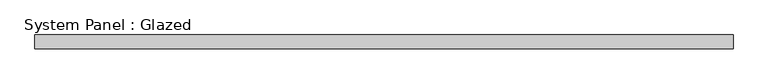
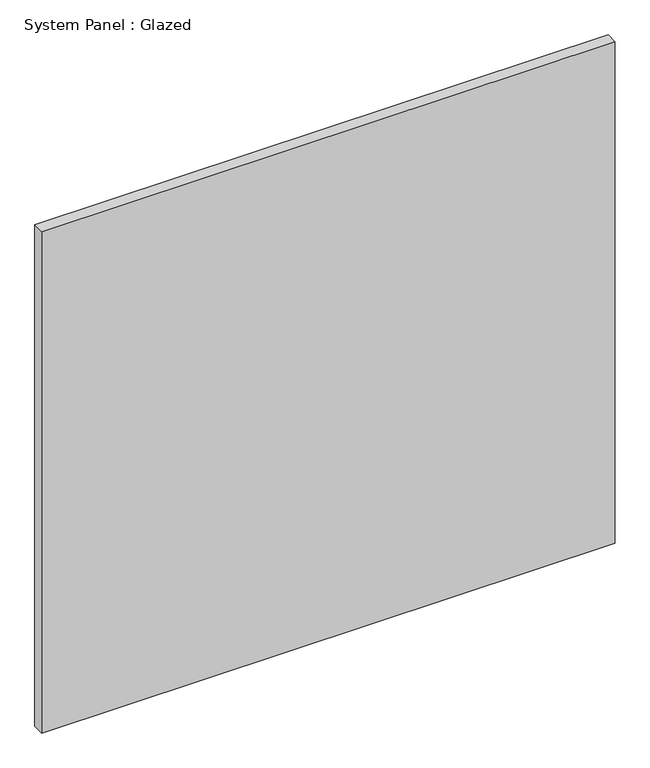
"""IFC4 building model written with IfcOpenShell, lengths in millimetres: plate geometry, System Panel : Glazed."""

from ifc_helpers import new_model, si_unit, origin, origin_with_axes, place, context, project, spatial, polyline, outline, extrude, source, transform, mapped, element, save


def system_panel_glazed_6cc28878(model_context):
    return source(origin(), model_context, "Body", "SweptSolid", [
        extrude(outline(polyline([(622.3125, 24.5), (-622.3125, 24.5), (-622.3125, 49.5), (622.3125, 49.5), (622.3125, 24.5)])), origin_with_axes(), (0.0, 0.0, 1.0), 1150.0),
    ])


if __name__ == "__main__":
    model = new_model("IFC4")
    model_context = context("Model", 3, world=origin())
    ifc_project = project(units=[si_unit("LENGTHUNIT", "METRE", prefix="MILLI")], contexts=[model_context])
    site = spatial("IfcSite", under=ifc_project)
    building = spatial("IfcBuilding", under=site)
    placement = place(None, origin())
    system_panel_glazed_shape = system_panel_glazed_6cc28878(model_context)
    element("IfcPlate", 1, ObjectType="System Panel : Glazed", at=placement, inside=building, context=model_context, shape_type="MappedRepresentation", body=[
        mapped(system_panel_glazed_shape, transform((0.0, 0.0, 0.0), x_axis=(1.0, 0.0, 0.0), y_axis=(0.0, 1.0, 0.0), z_axis=(0.0, 0.0, 1.0))),
    ])
    save(model, "model.ifc")
